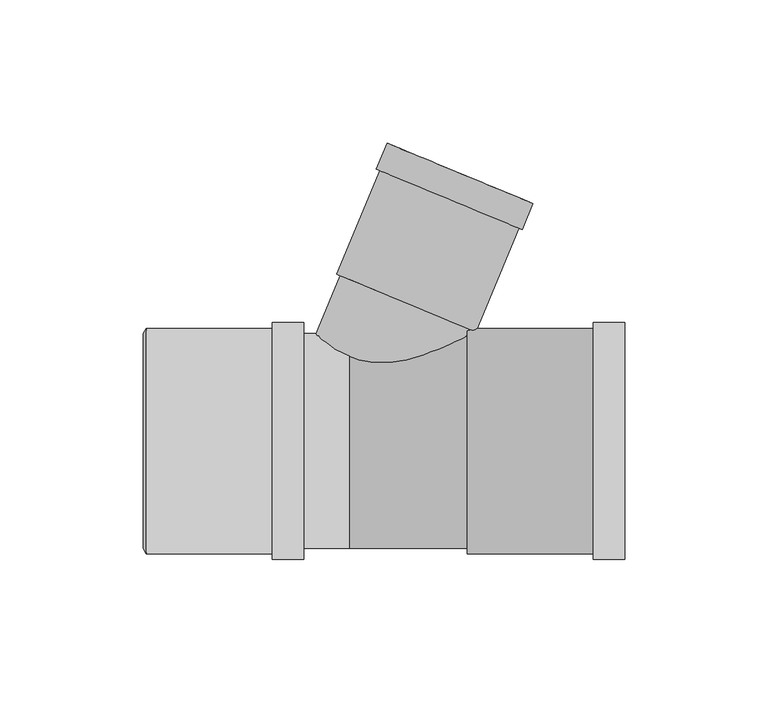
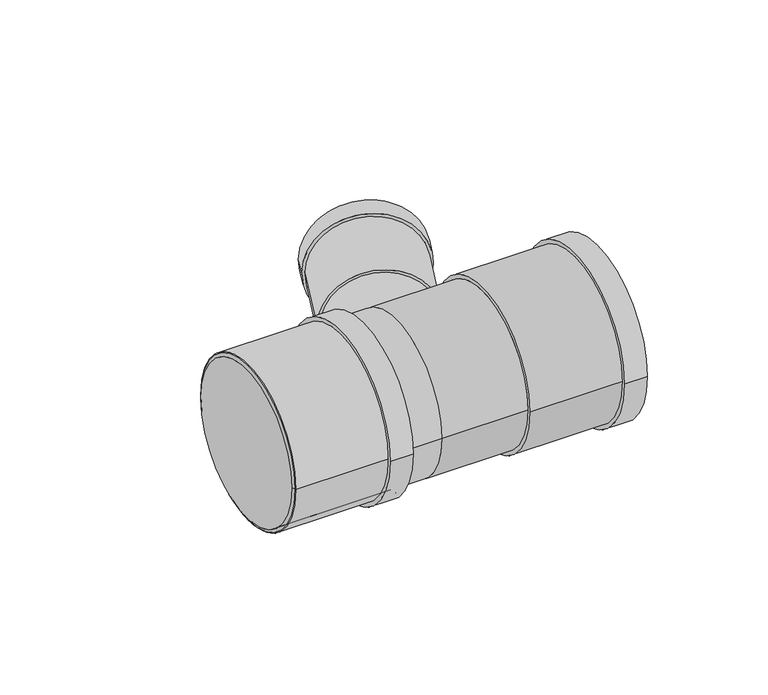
"""IFC4 building model written with IfcOpenShell, lengths in millimetres: pipe fitting geometry, Superdrain HTEA Branch : Superdrain HTEA Branch."""

from ifc_helpers import new_model, si_unit, point, frame, origin, origin_2d, place, context, project, spatial, polyline, circle_curve, trimmed, segment, composite_curve, outline, extrude, source, transform, mapped, element, save
from ifc_brep_helpers import plane_surface, revolved_surface, advanced_brep


def pipe_fitting_0097ce37(model_context):
    return source(origin(), model_context, "Body", "SolidModel", [
        extrude(outline(composite_curve([segment(trimmed(circle_curve(origin_2d(), 39.375), [point((39.375, 0.0))], [point((-39.375, 0.0))], False, "CARTESIAN"), True, "CONTINUOUS"), segment(trimmed(circle_curve(origin_2d(), 39.375), [point((-39.375, 0.0))], [point((39.375, 0.0))], False, "CARTESIAN"), True, "CONTINUOUS")], self_intersect=False), holes=[composite_curve([segment(trimmed(circle_curve(origin_2d(), 37.5), [point((37.5, 0.0))], [point((-37.5, 0.0))], True, "CARTESIAN"), True, "CONTINUOUS"), segment(trimmed(circle_curve(origin_2d(), 37.5), [point((-37.5, 0.0))], [point((37.5, 0.0))], True, "CARTESIAN"), True, "CONTINUOUS")], self_intersect=False)]), frame((-70.8, 0.0, 0.0), z_axis=(1.0, 0.0, 0.0), x_axis=(0.0, 1.0, 0.0)), (0.0, 0.0, 1.0), 55.0),
        extrude(outline(composite_curve([segment(trimmed(circle_curve(origin_2d(), 41.34375), [point((41.34375, 0.0))], [point((-41.34375, 0.0))], False, "CARTESIAN"), True, "CONTINUOUS"), segment(trimmed(circle_curve(origin_2d(), 41.34375), [point((-41.34375, 0.0))], [point((41.34375, 0.0))], False, "CARTESIAN"), True, "CONTINUOUS")], self_intersect=False), holes=[composite_curve([segment(trimmed(circle_curve(origin_2d(), 37.5), [point((37.5, 0.0))], [point((-37.5, 0.0))], True, "CARTESIAN"), True, "CONTINUOUS"), segment(trimmed(circle_curve(origin_2d(), 37.5), [point((-37.5, 0.0))], [point((37.5, 0.0))], True, "CARTESIAN"), True, "CONTINUOUS")], self_intersect=False)]), frame((-26.8, 0.0, 0.0), z_axis=(1.0, 0.0, 0.0), x_axis=(0.0, 1.0, 0.0)), (0.0, 0.0, 1.0), 11.0),
        advanced_brep(
        [(-71.8, 37.5, 0.0), (-71.8, -37.5, 0.0), (-70.8, 39.375, 0.0), (-70.8, -39.375, 0.0)],
        [
            (0, 1, circle_curve(frame((-71.8, 0.0, 0.0), z_axis=(-1.0, 0.0, 0.0), x_axis=(0.0, 1.0, 0.0)), 37.5)),
            (1, 0, circle_curve(frame((-71.8, 0.0, 0.0), z_axis=(-1.0, 0.0, 0.0), x_axis=(0.0, -1.0, 0.0)), 37.5)),
            (2, 3, circle_curve(frame((-70.8, 0.0, 0.0), z_axis=(1.0, 0.0, 0.0), x_axis=(0.0, -1.0, 0.0)), 39.375)),
            (3, 2, circle_curve(frame((-70.8, 0.0, 0.0), z_axis=(1.0, 0.0, 0.0), x_axis=(0.0, 1.0, 0.0)), 39.375)),
            (3, 1),
            (0, 2),
        ],
        [
            plane_surface(frame((-71.8, 0.0, 0.0), z_axis=(-1.0, 0.0, 0.0), x_axis=(0.0, 0.0, -1.0))),
            plane_surface(frame((-70.8, 0.0, 0.0), z_axis=(1.0, 0.0, 0.0), x_axis=(0.0, 0.0, -1.0))),
            revolved_surface(polyline([(-71.8, 37.5, 0.0), (-70.8, 39.375, 0.0)]), (-91.8, 0.0, 0.0), (1.0, 0.0, 0.0)),
            revolved_surface(polyline([(-71.8, -37.5, 0.0), (-70.8, -39.375, 0.0)]), (-91.8, 0.0, 0.0), (1.0, 0.0, 0.0)),
        ],
        [
            (0, [[1, 2]]),
            (1, [[3, 4]]),
            (2, [[-4, 5, -1, 6]]),
            (3, [[-3, -6, -2, -5]]),
        ],
    ),
        extrude(outline(composite_curve([segment(trimmed(circle_curve(origin_2d(), 39.375), [point((-39.375, 0.0))], [point((39.375, 0.0))], False, "CARTESIAN"), True, "CONTINUOUS"), segment(trimmed(circle_curve(origin_2d(), 39.375), [point((39.375, 0.0))], [point((-39.375, 0.0))], False, "CARTESIAN"), True, "CONTINUOUS")], self_intersect=False), holes=[composite_curve([segment(trimmed(circle_curve(origin_2d(), 37.5), [point((37.5, 0.0))], [point((-37.5, 0.0))], True, "CARTESIAN"), True, "CONTINUOUS"), segment(trimmed(circle_curve(origin_2d(), 37.5), [point((-37.5, 0.0))], [point((37.5, 0.0))], True, "CARTESIAN"), True, "CONTINUOUS")], self_intersect=False)]), frame((41.2, 0.0, 0.0), z_axis=(1.0, 0.0, 0.0), x_axis=(0.0, 1.0, 0.0)), (0.0, 0.0, 1.0), 55.0),
        extrude(outline(composite_curve([segment(trimmed(circle_curve(origin_2d(), 41.34375), [point((41.34375, 0.0))], [point((-41.34375, 0.0))], False, "CARTESIAN"), True, "CONTINUOUS"), segment(trimmed(circle_curve(origin_2d(), 41.34375), [point((-41.34375, 0.0))], [point((41.34375, 0.0))], False, "CARTESIAN"), True, "CONTINUOUS")], self_intersect=False), holes=[composite_curve([segment(trimmed(circle_curve(origin_2d(), 37.5), [point((37.5, 0.0))], [point((-37.5, 0.0))], True, "CARTESIAN"), True, "CONTINUOUS"), segment(trimmed(circle_curve(origin_2d(), 37.5), [point((-37.5, 0.0))], [point((37.5, 0.0))], True, "CARTESIAN"), True, "CONTINUOUS")], self_intersect=False)]), frame((85.2, 0.0, 0.0), z_axis=(1.0, 0.0, 0.0), x_axis=(0.0, 1.0, 0.0)), (0.0, 0.0, 1.0), 11.0),
        extrude(outline(composite_curve([segment(trimmed(circle_curve(origin_2d(), 25.0), [point((0.0, 25.0))], [point((0.0, -25.0))], False, "CARTESIAN"), True, "CONTINUOUS"), segment(trimmed(circle_curve(origin_2d(), 25.0), [point((0.0, -25.0))], [point((0.0, 25.0))], False, "CARTESIAN"), True, "CONTINUOUS")], self_intersect=False)), frame((0.0, 0.0, 0.0), z_axis=(0.3826834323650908, 0.9238795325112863, 0.0), x_axis=(0.0, 0.0, 1.0)), (0.0, 0.0, 1.0), 52.2),
        extrude(outline(composite_curve([segment(trimmed(circle_curve(origin_2d(), 37.5), [point((37.5, 0.0))], [point((-37.5, 0.0))], False, "CARTESIAN"), True, "CONTINUOUS"), segment(trimmed(circle_curve(origin_2d(), 37.5), [point((-37.5, 0.0))], [point((37.5, 0.0))], False, "CARTESIAN"), True, "CONTINUOUS")], self_intersect=False)), frame((-70.8, 0.0, 0.0), z_axis=(1.0, 0.0, 0.0), x_axis=(0.0, 1.0, 0.0)), (0.0, 0.0, 1.0), 70.8),
        extrude(outline(composite_curve([segment(trimmed(circle_curve(origin_2d(), 37.5), [point((-37.5, 0.0))], [point((37.5, 0.0))], False, "CARTESIAN"), True, "CONTINUOUS"), segment(trimmed(circle_curve(origin_2d(), 37.5), [point((37.5, 0.0))], [point((-37.5, 0.0))], False, "CARTESIAN"), True, "CONTINUOUS")], self_intersect=False)), frame((0.0, 0.0, 0.0), z_axis=(1.0, 0.0, 0.0), x_axis=(0.0, 1.0, 0.0)), (0.0, 0.0, 1.0), 41.2),
        extrude(outline(composite_curve([segment(trimmed(circle_curve(origin_2d(), 27.5625), [point((0.0, 27.5625))], [point((0.0, -27.5625))], False, "CARTESIAN"), True, "CONTINUOUS"), segment(trimmed(circle_curve(origin_2d(), 27.5625), [point((0.0, -27.5625))], [point((0.0, 27.5625))], False, "CARTESIAN"), True, "CONTINUOUS")], self_intersect=False), holes=[composite_curve([segment(trimmed(circle_curve(origin_2d(), 25.0), [point((0.0, 25.0))], [point((0.0, -25.0))], True, "CARTESIAN"), True, "CONTINUOUS"), segment(trimmed(circle_curve(origin_2d(), 25.0), [point((0.0, -25.0))], [point((0.0, 25.0))], True, "CARTESIAN"), True, "CONTINUOUS")], self_intersect=False)]), frame((34.9772657, 84.4425893, 0.0), z_axis=(0.3826834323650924, 0.9238795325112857, 0.0), x_axis=(0.0, 0.0, 1.0)), (0.0, 0.0, 1.0), 9.8),
        extrude(outline(composite_curve([segment(trimmed(circle_curve(origin_2d(), 26.25), [point((0.0, 26.25))], [point((0.0, -26.2500001))], False, "CARTESIAN"), True, "CONTINUOUS"), segment(trimmed(circle_curve(origin_2d(), 26.25), [point((0.0, -26.2500001))], [point((0.0, 26.25))], False, "CARTESIAN"), True, "CONTINUOUS")], self_intersect=False), holes=[composite_curve([segment(trimmed(circle_curve(origin_2d(), 25.0), [point((0.0, 25.0))], [point((0.0, -25.0))], True, "CARTESIAN"), True, "CONTINUOUS"), segment(trimmed(circle_curve(origin_2d(), 25.0), [point((0.0, -25.0))], [point((0.0, 25.0))], True, "CARTESIAN"), True, "CONTINUOUS")], self_intersect=False)]), frame((19.9760752, 48.2265116, 0.0), z_axis=(0.38268343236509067, 0.9238795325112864, 0.0), x_axis=(0.0, 0.0, 1.0)), (0.0, 0.0, 1.0), 49.0),
    ])


if __name__ == "__main__":
    model = new_model("IFC4")
    model_context = context("Model", 3, world=origin())
    ifc_project = project(units=[si_unit("LENGTHUNIT", "METRE", prefix="MILLI")], contexts=[model_context])
    site = spatial("IfcSite", under=ifc_project)
    building = spatial("IfcBuilding", under=site)
    placement = place(None, origin())
    pipe_fitting_shape = pipe_fitting_0097ce37(model_context)
    element("IfcPipeFitting", 1, ObjectType="Superdrain HTEA Branch : Superdrain HTEA Branch", at=placement, inside=building, context=model_context, shape_type="MappedRepresentation", body=[
        mapped(pipe_fitting_shape, transform((0.0, 0.0, 0.0), x_axis=(1.0, 0.0, 0.0), y_axis=(0.0, 1.0, 0.0), z_axis=(0.0, 0.0, 1.0))),
    ])
    save(model, "model.ifc")
